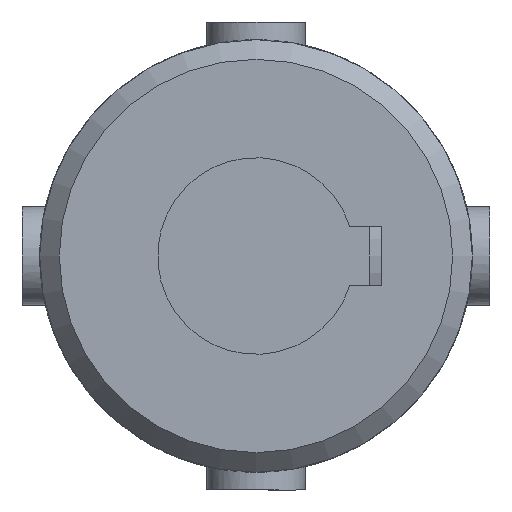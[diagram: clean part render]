
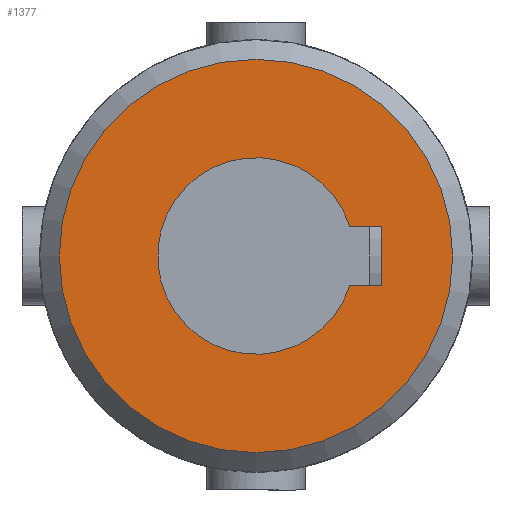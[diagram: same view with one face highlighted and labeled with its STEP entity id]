
A CAD part, left-side view. The second image highlights one B-rep face of the part: STEP entity #1377.
In plain terms, the highlighted planar face has unit normal (-1, 0, 0) as drawn and (0, -1, 0) by its records, which use the part's own axes.
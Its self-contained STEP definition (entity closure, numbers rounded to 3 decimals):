
#124=LINE('',#2669,#181);
#128=LINE('',#2696,#185);
#130=LINE('',#2704,#187);
#181=VECTOR('',#1776,1.63);
#185=VECTOR('',#1788,3.);
#187=VECTOR('',#1792,1.63);
#233=PLANE('',#1510);
#269=FACE_BOUND('',#495,.T.);
#387=FACE_OUTER_BOUND('',#494,.T.);
#494=EDGE_LOOP('',(#1203));
#495=EDGE_LOOP('',(#1204,#1205,#1206,#1207));
#555=CIRCLE('',#1497,5.);
#561=CIRCLE('',#1508,10.);
#667=VERTEX_POINT('',#2666);
#668=VERTEX_POINT('',#2668);
#671=VERTEX_POINT('',#2678);
#673=VERTEX_POINT('',#2694);
#682=VERTEX_POINT('',#2793);
#840=EDGE_CURVE('',#668,#667,#124,.T.);
#844=EDGE_CURVE('',#671,#668,#555,.T.);
#848=EDGE_CURVE('',#667,#673,#128,.T.);
#851=EDGE_CURVE('',#673,#671,#130,.T.);
#861=EDGE_CURVE('',#682,#682,#561,.T.);
#1203=ORIENTED_EDGE('',*,*,#861,.F.);
#1204=ORIENTED_EDGE('',*,*,#840,.T.);
#1205=ORIENTED_EDGE('',*,*,#848,.T.);
#1206=ORIENTED_EDGE('',*,*,#851,.T.);
#1207=ORIENTED_EDGE('',*,*,#844,.T.);
#1377=ADVANCED_FACE('',(#387,#269),#233,.F.);
#1497=AXIS2_PLACEMENT_3D('',#2679,#1782,#1783);
#1508=AXIS2_PLACEMENT_3D('',#2794,#1809,#1810);
#1510=AXIS2_PLACEMENT_3D('',#2962,#1817,#1818);
#1776=DIRECTION('',(0.,0.,-1.));
#1782=DIRECTION('center_axis',(0.,1.,0.));
#1783=DIRECTION('ref_axis',(0.3,0.,-0.954));
#1788=DIRECTION('',(-1.,0.,0.));
#1792=DIRECTION('',(0.,0.,1.));
#1809=DIRECTION('center_axis',(0.,1.,0.));
#1810=DIRECTION('ref_axis',(1.,0.,0.));
#1817=DIRECTION('center_axis',(0.,1.,0.));
#1818=DIRECTION('ref_axis',(0.,0.,1.));
#2666=CARTESIAN_POINT('',(1.5,-29.5,-6.4));
#2668=CARTESIAN_POINT('',(1.5,-29.5,-4.77));
#2669=CARTESIAN_POINT('',(1.5,-29.5,-2.385));
#2678=CARTESIAN_POINT('',(-1.5,-29.5,-4.77));
#2679=CARTESIAN_POINT('Origin',(0.,-29.5,0.));
#2694=CARTESIAN_POINT('',(-1.5,-29.5,-6.4));
#2696=CARTESIAN_POINT('',(0.75,-29.5,-6.4));
#2704=CARTESIAN_POINT('',(-1.5,-29.5,-3.2));
#2793=CARTESIAN_POINT('',(-10.,-29.5,0.));
#2794=CARTESIAN_POINT('Origin',(0.,-29.5,0.));
#2962=CARTESIAN_POINT('Origin',(0.,-29.5,0.));
